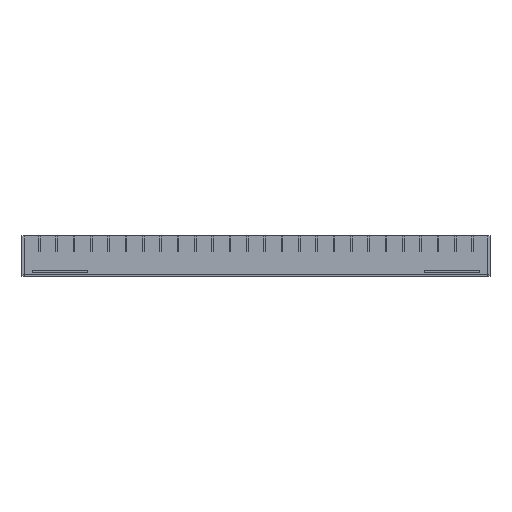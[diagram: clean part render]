
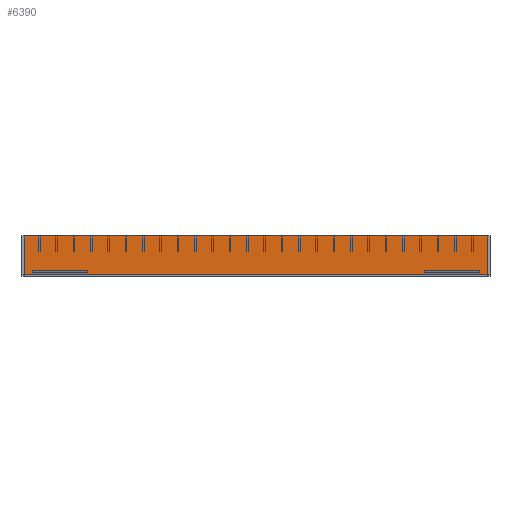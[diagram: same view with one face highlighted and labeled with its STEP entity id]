
A CAD part, top view. The second image highlights one B-rep face of the part: STEP entity #6390.
In plain terms, the highlighted planar face has unit normal (0, 0, 1).
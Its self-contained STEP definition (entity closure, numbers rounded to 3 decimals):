
#14 = DIRECTION ( 'NONE',  ( 0., -1., 0. ) ) ;
#877 = VECTOR ( 'NONE', #959, 1000. ) ;
#925 = LINE ( 'NONE', #2739, #2438 ) ;
#959 = DIRECTION ( 'NONE',  ( 0., 1., 0. ) ) ;
#1102 = LINE ( 'NONE', #4674, #877 ) ;
#1277 = EDGE_CURVE ( 'NONE', #3977, #8155, #3436, .T. ) ;
#1414 = ORIENTED_EDGE ( 'NONE', *, *, #1605, .T. ) ;
#1605 = EDGE_CURVE ( 'NONE', #2145, #3977, #1102, .T. ) ;
#1625 = PLANE ( 'NONE',  #2040 ) ;
#2040 = AXIS2_PLACEMENT_3D ( 'NONE', #5349, #6866, #2369 ) ;
#2047 = CARTESIAN_POINT ( 'NONE',  ( -63.234, 45.593, 3. ) ) ;
#2145 = VERTEX_POINT ( 'NONE', #2938 ) ;
#2369 = DIRECTION ( 'NONE',  ( 1., 0., 0. ) ) ;
#2438 = VECTOR ( 'NONE', #8759, 1000. ) ;
#2739 = CARTESIAN_POINT ( 'NONE',  ( -63.234, -4.407, 3. ) ) ;
#2938 = CARTESIAN_POINT ( 'NONE',  ( 530.766, -4.407, 3. ) ) ;
#3178 = ORIENTED_EDGE ( 'NONE', *, *, #5050, .T. ) ;
#3436 = LINE ( 'NONE', #2047, #7460 ) ;
#3831 = LINE ( 'NONE', #5231, #9374 ) ;
#3861 = CARTESIAN_POINT ( 'NONE',  ( 530.766, 45.593, 3. ) ) ;
#3869 = CARTESIAN_POINT ( 'NONE',  ( -63.234, -4.407, 3. ) ) ;
#3977 = VERTEX_POINT ( 'NONE', #3861 ) ;
#4674 = CARTESIAN_POINT ( 'NONE',  ( 530.766, 45.593, 3. ) ) ;
#5050 = EDGE_CURVE ( 'NONE', #6401, #2145, #925, .T. ) ;
#5231 = CARTESIAN_POINT ( 'NONE',  ( -63.234, 45.593, 3. ) ) ;
#5349 = CARTESIAN_POINT ( 'NONE',  ( -63.234, -4.407, 3. ) ) ;
#5430 = EDGE_CURVE ( 'NONE', #8155, #6401, #3831, .T. ) ;
#6044 = DIRECTION ( 'NONE',  ( -1., 0., 0. ) ) ;
#6390 = ADVANCED_FACE ( 'NONE', ( #7357 ), #1625, .T. ) ;
#6401 = VERTEX_POINT ( 'NONE', #3869 ) ;
#6857 = ORIENTED_EDGE ( 'NONE', *, *, #1277, .T. ) ;
#6866 = DIRECTION ( 'NONE',  ( 0., 0., 1. ) ) ;
#7357 = FACE_OUTER_BOUND ( 'NONE', #8207, .T. ) ;
#7460 = VECTOR ( 'NONE', #6044, 1000. ) ;
#8155 = VERTEX_POINT ( 'NONE', #9225 ) ;
#8207 = EDGE_LOOP ( 'NONE', ( #9221, #3178, #1414, #6857 ) ) ;
#8759 = DIRECTION ( 'NONE',  ( 1., 0., 0. ) ) ;
#9221 = ORIENTED_EDGE ( 'NONE', *, *, #5430, .T. ) ;
#9225 = CARTESIAN_POINT ( 'NONE',  ( -63.234, 45.593, 3. ) ) ;
#9374 = VECTOR ( 'NONE', #14, 1000. ) ;
